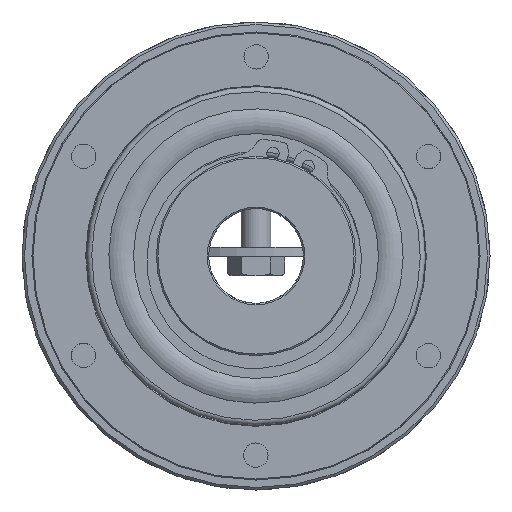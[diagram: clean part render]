
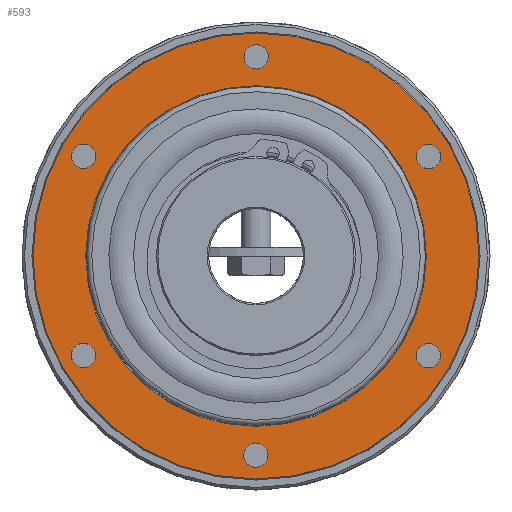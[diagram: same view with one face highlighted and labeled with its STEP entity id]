
A CAD part, left-side view. The second image highlights one B-rep face of the part: STEP entity #593.
In plain terms, the highlighted planar face has unit normal (-1, 0, 0).
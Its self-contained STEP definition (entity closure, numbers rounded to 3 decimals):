
#593 = ADVANCED_FACE( '', ( #1135, #1136, #1137, #1138, #1139, #1140, #1141, #1142 ), #1143, .F. );
#1135 = FACE_OUTER_BOUND( '', #1667, .T. );
#1136 = FACE_BOUND( '', #1668, .T. );
#1137 = FACE_BOUND( '', #1669, .T. );
#1138 = FACE_BOUND( '', #1670, .T. );
#1139 = FACE_BOUND( '', #1671, .T. );
#1140 = FACE_BOUND( '', #1672, .T. );
#1141 = FACE_BOUND( '', #1673, .T. );
#1142 = FACE_BOUND( '', #1674, .T. );
#1143 = PLANE( '', #1675 );
#1667 = EDGE_LOOP( '', ( #2641 ) );
#1668 = EDGE_LOOP( '', ( #2642 ) );
#1669 = EDGE_LOOP( '', ( #2643 ) );
#1670 = EDGE_LOOP( '', ( #2644 ) );
#1671 = EDGE_LOOP( '', ( #2645 ) );
#1672 = EDGE_LOOP( '', ( #2646 ) );
#1673 = EDGE_LOOP( '', ( #2647 ) );
#1674 = EDGE_LOOP( '', ( #2648 ) );
#1675 = AXIS2_PLACEMENT_3D( '', #2649, #2650, #2651 );
#2641 = ORIENTED_EDGE( '', *, *, #3114, .T. );
#2642 = ORIENTED_EDGE( '', *, *, #3115, .T. );
#2643 = ORIENTED_EDGE( '', *, *, #3116, .T. );
#2644 = ORIENTED_EDGE( '', *, *, #3117, .T. );
#2645 = ORIENTED_EDGE( '', *, *, #3118, .T. );
#2646 = ORIENTED_EDGE( '', *, *, #3112, .T. );
#2647 = ORIENTED_EDGE( '', *, *, #3119, .T. );
#2648 = ORIENTED_EDGE( '', *, *, #3120, .T. );
#2649 = CARTESIAN_POINT( '', ( -15.95, 45., 0. ) );
#2650 = DIRECTION( '', ( 1., 0., 0. ) );
#2651 = DIRECTION( '', ( 0., 1., 0. ) );
#3112 = EDGE_CURVE( '', #3574, #3574, #3575, .T. );
#3114 = EDGE_CURVE( '', #3578, #3578, #3579, .T. );
#3115 = EDGE_CURVE( '', #3580, #3580, #3581, .T. );
#3116 = EDGE_CURVE( '', #3582, #3582, #3583, .T. );
#3117 = EDGE_CURVE( '', #3584, #3584, #3585, .T. );
#3118 = EDGE_CURVE( '', #3586, #3586, #3587, .T. );
#3119 = EDGE_CURVE( '', #3588, #3588, #3589, .T. );
#3120 = EDGE_CURVE( '', #3590, #3590, #3591, .T. );
#3574 = VERTEX_POINT( '', #4470 );
#3575 = CIRCLE( '', #4471, 2.459 );
#3578 = VERTEX_POINT( '', #4474 );
#3579 = CIRCLE( '', #4475, 44.8 );
#3580 = VERTEX_POINT( '', #4476 );
#3581 = CIRCLE( '', #4477, 34.2 );
#3582 = VERTEX_POINT( '', #4478 );
#3583 = CIRCLE( '', #4479, 2.459 );
#3584 = VERTEX_POINT( '', #4480 );
#3585 = CIRCLE( '', #4481, 2.459 );
#3586 = VERTEX_POINT( '', #4482 );
#3587 = CIRCLE( '', #4483, 2.459 );
#3588 = VERTEX_POINT( '', #4484 );
#3589 = CIRCLE( '', #4485, 2.459 );
#3590 = VERTEX_POINT( '', #4486 );
#3591 = CIRCLE( '', #4487, 2.459 );
#4470 = CARTESIAN_POINT( '', ( -15.95, -36.77, -21.229 ) );
#4471 = AXIS2_PLACEMENT_3D( '', #4967, #4968, #4969 );
#4474 = CARTESIAN_POINT( '', ( -15.95, 0., -44.8 ) );
#4475 = AXIS2_PLACEMENT_3D( '', #4973, #4974, #4975 );
#4476 = CARTESIAN_POINT( '', ( -15.95, 0., -34.2 ) );
#4477 = AXIS2_PLACEMENT_3D( '', #4976, #4977, #4978 );
#4478 = CARTESIAN_POINT( '', ( -15.95, 36.77, 21.229 ) );
#4479 = AXIS2_PLACEMENT_3D( '', #4979, #4980, #4981 );
#4480 = CARTESIAN_POINT( '', ( -15.95, 36.77, -21.229 ) );
#4481 = AXIS2_PLACEMENT_3D( '', #4982, #4983, #4984 );
#4482 = CARTESIAN_POINT( '', ( -15.95, 0., -42.459 ) );
#4483 = AXIS2_PLACEMENT_3D( '', #4985, #4986, #4987 );
#4484 = CARTESIAN_POINT( '', ( -15.95, -36.77, 21.229 ) );
#4485 = AXIS2_PLACEMENT_3D( '', #4988, #4989, #4990 );
#4486 = CARTESIAN_POINT( '', ( -15.95, 0., 42.459 ) );
#4487 = AXIS2_PLACEMENT_3D( '', #4991, #4992, #4993 );
#4967 = CARTESIAN_POINT( '', ( -15.95, -34.641, -20. ) );
#4968 = DIRECTION( '', ( 1., 0., 0. ) );
#4969 = DIRECTION( '', ( 0., -0.866, -0.5 ) );
#4973 = CARTESIAN_POINT( '', ( -15.95, 0., 0. ) );
#4974 = DIRECTION( '', ( -1., 0., 0. ) );
#4975 = DIRECTION( '', ( 0., 0., -1. ) );
#4976 = CARTESIAN_POINT( '', ( -15.95, 0., 0. ) );
#4977 = DIRECTION( '', ( 1., 0., 0. ) );
#4978 = DIRECTION( '', ( 0., 0., -1. ) );
#4979 = CARTESIAN_POINT( '', ( -15.95, 34.641, 20. ) );
#4980 = DIRECTION( '', ( 1., 0., 0. ) );
#4981 = DIRECTION( '', ( 0., 0.866, 0.5 ) );
#4982 = CARTESIAN_POINT( '', ( -15.95, 34.641, -20. ) );
#4983 = DIRECTION( '', ( 1., 0., 0. ) );
#4984 = DIRECTION( '', ( 0., 0.866, -0.5 ) );
#4985 = CARTESIAN_POINT( '', ( -15.95, 0., -40. ) );
#4986 = DIRECTION( '', ( 1., 0., 0. ) );
#4987 = DIRECTION( '', ( 0., 0., -1. ) );
#4988 = CARTESIAN_POINT( '', ( -15.95, -34.641, 20. ) );
#4989 = DIRECTION( '', ( 1., 0., 0. ) );
#4990 = DIRECTION( '', ( 0., -0.866, 0.5 ) );
#4991 = CARTESIAN_POINT( '', ( -15.95, 0., 40. ) );
#4992 = DIRECTION( '', ( 1., 0., 0. ) );
#4993 = DIRECTION( '', ( 0., 0., 1. ) );
